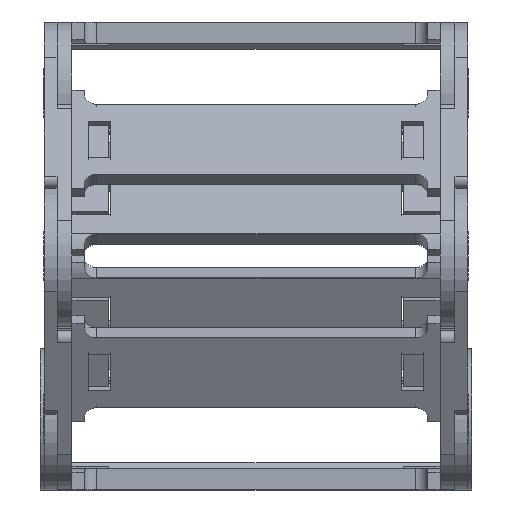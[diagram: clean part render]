
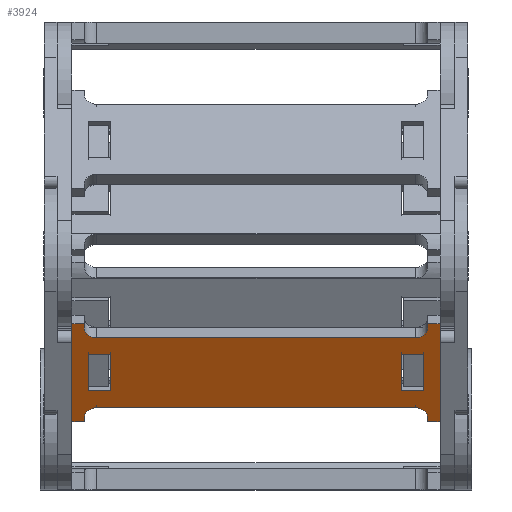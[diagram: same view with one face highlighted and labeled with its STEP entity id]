
A CAD part, left-side view. The second image highlights one B-rep face of the part: STEP entity #3924.
In plain terms, the highlighted planar face has unit normal (-0.866, 0, -0.5) as drawn and (0, -1, 0) by its records, which use the part's own axes.
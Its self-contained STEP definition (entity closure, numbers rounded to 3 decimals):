
#3023=DIRECTION('',(0.,0.,1.));
#3024=VECTOR('',#3023,10.3);
#3025=CARTESIAN_POINT('',(62.,0.,-5.15));
#3026=LINE('',#3025,#3024);
#3048=DIRECTION('',(0.,0.,1.));
#3049=VECTOR('',#3048,28.);
#3050=CARTESIAN_POINT('',(71.5,0.,-14.));
#3051=LINE('',#3050,#3049);
#3101=DIRECTION('',(-1.,0.,0.));
#3102=VECTOR('',#3101,5.5);
#3103=CARTESIAN_POINT('',(67.5,0.,-5.15));
#3104=LINE('',#3103,#3102);
#3125=DIRECTION('',(1.,0.,0.));
#3126=VECTOR('',#3125,5.5);
#3127=CARTESIAN_POINT('',(62.,0.,5.15));
#3128=LINE('',#3127,#3126);
#3133=DIRECTION('',(0.,0.,-1.));
#3134=VECTOR('',#3133,10.3);
#3135=CARTESIAN_POINT('',(-15.5,0.,5.15));
#3136=LINE('',#3135,#3134);
#3137=DIRECTION('',(0.,0.,1.));
#3138=VECTOR('',#3137,10.3);
#3139=CARTESIAN_POINT('',(67.5,0.,-5.15));
#3140=LINE('',#3139,#3138);
#3141=CARTESIAN_POINT('',(65.5,0.,13.));
#3142=DIRECTION('',(0.,-1.,0.));
#3143=DIRECTION('',(0.,0.,-1.));
#3144=AXIS2_PLACEMENT_3D('',#3141,#3142,#3143);
#3146=CARTESIAN_POINT('',(65.5,0.,-13.));
#3147=DIRECTION('',(0.,-1.,0.));
#3148=DIRECTION('',(1.,0.,0.));
#3149=AXIS2_PLACEMENT_3D('',#3146,#3147,#3148);
#3171=DIRECTION('',(1.,0.,0.));
#3172=VECTOR('',#3171,5.5);
#3173=CARTESIAN_POINT('',(-15.5,0.,5.15));
#3174=LINE('',#3173,#3172);
#3191=DIRECTION('',(0.,0.,-1.));
#3192=VECTOR('',#3191,10.3);
#3193=CARTESIAN_POINT('',(-10.,0.,5.15));
#3194=LINE('',#3193,#3192);
#3224=DIRECTION('',(0.,0.,-1.));
#3225=VECTOR('',#3224,28.);
#3226=CARTESIAN_POINT('',(-19.5,0.,14.));
#3227=LINE('',#3226,#3225);
#3277=DIRECTION('',(-1.,0.,0.));
#3278=VECTOR('',#3277,79.);
#3279=CARTESIAN_POINT('',(65.5,0.,10.));
#3280=LINE('',#3279,#3278);
#3281=CARTESIAN_POINT('',(-13.5,0.,13.));
#3282=DIRECTION('',(0.,1.,0.));
#3283=DIRECTION('',(0.,0.,-1.));
#3284=AXIS2_PLACEMENT_3D('',#3281,#3282,#3283);
#3311=DIRECTION('',(0.,0.,1.));
#3312=VECTOR('',#3311,1.);
#3313=CARTESIAN_POINT('',(-16.5,0.,13.));
#3314=LINE('',#3313,#3312);
#3324=DIRECTION('',(-1.,0.,0.));
#3325=VECTOR('',#3324,3.);
#3326=CARTESIAN_POINT('',(-16.5,0.,14.));
#3327=LINE('',#3326,#3325);
#3366=DIRECTION('',(0.,0.,-1.));
#3367=VECTOR('',#3366,1.);
#3368=CARTESIAN_POINT('',(68.5,0.,14.));
#3369=LINE('',#3368,#3367);
#3370=DIRECTION('',(-1.,0.,0.));
#3371=VECTOR('',#3370,3.);
#3372=CARTESIAN_POINT('',(71.5,0.,14.));
#3373=LINE('',#3372,#3371);
#3378=DIRECTION('',(1.,0.,0.));
#3379=VECTOR('',#3378,3.);
#3380=CARTESIAN_POINT('',(-19.5,0.,-14.));
#3381=LINE('',#3380,#3379);
#3407=DIRECTION('',(0.,0.,1.));
#3408=VECTOR('',#3407,1.);
#3409=CARTESIAN_POINT('',(-16.5,0.,-14.));
#3410=LINE('',#3409,#3408);
#3432=CARTESIAN_POINT('',(-13.5,0.,-13.));
#3433=DIRECTION('',(0.,1.,0.));
#3434=DIRECTION('',(-1.,0.,0.));
#3435=AXIS2_PLACEMENT_3D('',#3432,#3433,#3434);
#3441=DIRECTION('',(1.,0.,0.));
#3442=VECTOR('',#3441,79.);
#3443=CARTESIAN_POINT('',(-13.5,0.,-10.));
#3444=LINE('',#3443,#3442);
#3483=DIRECTION('',(0.,0.,-1.));
#3484=VECTOR('',#3483,1.);
#3485=CARTESIAN_POINT('',(68.5,0.,-13.));
#3486=LINE('',#3485,#3484);
#3491=DIRECTION('',(1.,0.,0.));
#3492=VECTOR('',#3491,3.);
#3493=CARTESIAN_POINT('',(68.5,0.,-14.));
#3494=LINE('',#3493,#3492);
#3511=DIRECTION('',(-1.,0.,0.));
#3512=VECTOR('',#3511,5.5);
#3513=CARTESIAN_POINT('',(-10.,0.,-5.15));
#3514=LINE('',#3513,#3512);
#3580=CARTESIAN_POINT('',(71.5,0.,-14.));
#3581=VERTEX_POINT('',#3580);
#3582=CARTESIAN_POINT('',(71.5,0.,14.));
#3583=VERTEX_POINT('',#3582);
#3587=CARTESIAN_POINT('',(62.,0.,-5.15));
#3589=VERTEX_POINT('',#3587);
#3590=CARTESIAN_POINT('',(62.,0.,5.15));
#3591=VERTEX_POINT('',#3590);
#3598=CARTESIAN_POINT('',(67.5,0.,-5.15));
#3599=VERTEX_POINT('',#3598);
#3602=CARTESIAN_POINT('',(67.5,0.,5.15));
#3603=VERTEX_POINT('',#3602);
#3604=CARTESIAN_POINT('',(65.5,0.,10.));
#3605=CARTESIAN_POINT('',(68.5,0.,13.));
#3606=VERTEX_POINT('',#3604);
#3607=VERTEX_POINT('',#3605);
#3608=CARTESIAN_POINT('',(68.5,0.,14.));
#3609=VERTEX_POINT('',#3608);
#3610=CARTESIAN_POINT('',(68.5,0.,-14.));
#3611=VERTEX_POINT('',#3610);
#3612=CARTESIAN_POINT('',(68.5,0.,-13.));
#3613=VERTEX_POINT('',#3612);
#3614=CARTESIAN_POINT('',(65.5,0.,-10.));
#3615=VERTEX_POINT('',#3614);
#3637=CARTESIAN_POINT('',(-19.5,0.,-14.));
#3638=CARTESIAN_POINT('',(-16.5,0.,-14.));
#3639=VERTEX_POINT('',#3637);
#3640=VERTEX_POINT('',#3638);
#3641=CARTESIAN_POINT('',(-19.5,0.,14.));
#3642=VERTEX_POINT('',#3641);
#3643=CARTESIAN_POINT('',(-16.5,0.,14.));
#3644=VERTEX_POINT('',#3643);
#3645=CARTESIAN_POINT('',(-15.5,0.,5.15));
#3646=CARTESIAN_POINT('',(-15.5,0.,-5.15));
#3647=VERTEX_POINT('',#3645);
#3648=VERTEX_POINT('',#3646);
#3649=CARTESIAN_POINT('',(-10.,0.,-5.15));
#3650=VERTEX_POINT('',#3649);
#3651=CARTESIAN_POINT('',(-10.,0.,5.15));
#3652=VERTEX_POINT('',#3651);
#3665=CARTESIAN_POINT('',(-13.5,0.,-10.));
#3667=VERTEX_POINT('',#3665);
#3669=CARTESIAN_POINT('',(-16.5,0.,-13.));
#3671=VERTEX_POINT('',#3669);
#3674=CARTESIAN_POINT('',(-13.5,0.,10.));
#3676=VERTEX_POINT('',#3674);
#3678=CARTESIAN_POINT('',(-16.5,0.,13.));
#3680=VERTEX_POINT('',#3678);
#3870=CARTESIAN_POINT('',(52.,0.,0.));
#3871=DIRECTION('',(0.,1.,0.));
#3872=DIRECTION('',(1.,0.,0.));
#3873=AXIS2_PLACEMENT_3D('',#3870,#3871,#3872);
#3874=PLANE('',#3873);
#3876=ORIENTED_EDGE('',*,*,#3875,.F.);
#3878=ORIENTED_EDGE('',*,*,#3877,.F.);
#3880=ORIENTED_EDGE('',*,*,#3879,.F.);
#3882=ORIENTED_EDGE('',*,*,#3881,.T.);
#3884=ORIENTED_EDGE('',*,*,#3883,.F.);
#3886=ORIENTED_EDGE('',*,*,#3885,.F.);
#3887=ORIENTED_EDGE('',*,*,#3762,.F.);
#3889=ORIENTED_EDGE('',*,*,#3888,.F.);
#3891=ORIENTED_EDGE('',*,*,#3890,.F.);
#3893=ORIENTED_EDGE('',*,*,#3892,.T.);
#3895=ORIENTED_EDGE('',*,*,#3894,.F.);
#3897=ORIENTED_EDGE('',*,*,#3896,.F.);
#3899=ORIENTED_EDGE('',*,*,#3898,.F.);
#3901=ORIENTED_EDGE('',*,*,#3900,.F.);
#3903=ORIENTED_EDGE('',*,*,#3902,.F.);
#3905=ORIENTED_EDGE('',*,*,#3904,.F.);
#3906=EDGE_LOOP('',(#3876,#3878,#3880,#3882,#3884,#3886,#3887,#3889,#3891,#3893,
#3895,#3897,#3899,#3901,#3903,#3905));
#3907=FACE_OUTER_BOUND('',#3906,.F.);
#3908=ORIENTED_EDGE('',*,*,#3848,.T.);
#3909=ORIENTED_EDGE('',*,*,#3860,.F.);
#3910=ORIENTED_EDGE('',*,*,#3727,.F.);
#3911=ORIENTED_EDGE('',*,*,#3818,.F.);
#3912=EDGE_LOOP('',(#3908,#3909,#3910,#3911));
#3913=FACE_BOUND('',#3912,.F.);
#3915=ORIENTED_EDGE('',*,*,#3914,.T.);
#3917=ORIENTED_EDGE('',*,*,#3916,.F.);
#3919=ORIENTED_EDGE('',*,*,#3918,.F.);
#3921=ORIENTED_EDGE('',*,*,#3920,.F.);
#3922=EDGE_LOOP('',(#3915,#3917,#3919,#3921));
#3923=FACE_BOUND('',#3922,.F.);
#3924=ADVANCED_FACE('',(#3907,#3913,#3923),#3874,.F.);
#3145=CIRCLE('',#3144,3.);
#3150=CIRCLE('',#3149,3.);
#3285=CIRCLE('',#3284,3.);
#3436=CIRCLE('',#3435,3.);
#3727=EDGE_CURVE('',#3589,#3591,#3026,.T.);
#3762=EDGE_CURVE('',#3581,#3583,#3051,.T.);
#3818=EDGE_CURVE('',#3599,#3589,#3104,.T.);
#3848=EDGE_CURVE('',#3599,#3603,#3140,.T.);
#3860=EDGE_CURVE('',#3591,#3603,#3128,.T.);
#3875=EDGE_CURVE('',#3680,#3644,#3314,.T.);
#3877=EDGE_CURVE('',#3676,#3680,#3285,.T.);
#3879=EDGE_CURVE('',#3606,#3676,#3280,.T.);
#3881=EDGE_CURVE('',#3606,#3607,#3145,.T.);
#3883=EDGE_CURVE('',#3609,#3607,#3369,.T.);
#3885=EDGE_CURVE('',#3583,#3609,#3373,.T.);
#3888=EDGE_CURVE('',#3611,#3581,#3494,.T.);
#3890=EDGE_CURVE('',#3613,#3611,#3486,.T.);
#3892=EDGE_CURVE('',#3613,#3615,#3150,.T.);
#3894=EDGE_CURVE('',#3667,#3615,#3444,.T.);
#3896=EDGE_CURVE('',#3671,#3667,#3436,.T.);
#3898=EDGE_CURVE('',#3640,#3671,#3410,.T.);
#3900=EDGE_CURVE('',#3639,#3640,#3381,.T.);
#3902=EDGE_CURVE('',#3642,#3639,#3227,.T.);
#3904=EDGE_CURVE('',#3644,#3642,#3327,.T.);
#3914=EDGE_CURVE('',#3647,#3648,#3136,.T.);
#3916=EDGE_CURVE('',#3650,#3648,#3514,.T.);
#3918=EDGE_CURVE('',#3652,#3650,#3194,.T.);
#3920=EDGE_CURVE('',#3647,#3652,#3174,.T.);
